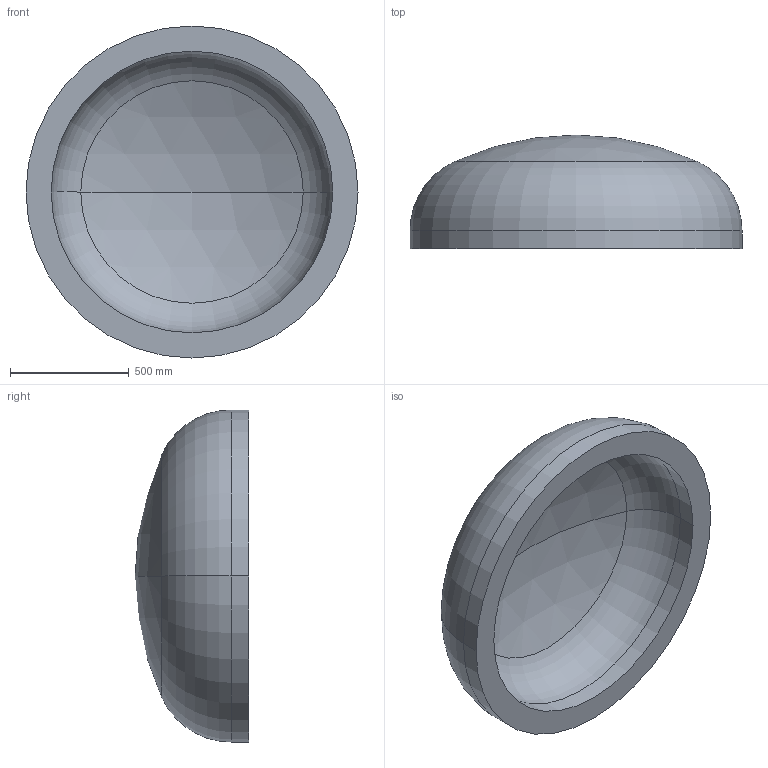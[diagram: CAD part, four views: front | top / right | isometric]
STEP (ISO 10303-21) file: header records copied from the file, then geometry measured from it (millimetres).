
FILE_DESCRIPTION (( 'STEP AP203' ), '1' );
FILE_NAME ('DIN 28013 Korbbogenform_-_Boden DIN 28013 - 1400 x 75 - I - s=106.step', '2016-07-01T10:30:01', ( '' ), ( '' ), 'SwSTEP 2.0', 'SolidWorks 2013', '' );
FILE_SCHEMA (( 'CONFIG_CONTROL_DESIGN' ));
Length unit declared in the file: millimetre
Products named in the file (1): DIN 28013 Korbbogenform_-_Boden DIN 28013 - 1400 x 75 - I - s=106
Bounding box: 1400 x 479.18 x 1400 mm (x, y, z)
Volume: 237641918.7 mm3; surface area: 4938254.9 mm2
Topology: 1 solids, 1 shells, 13 faces, 24 edges, 14 vertices
Faces by surface type: torus 4, cylinder 4, sphere 4, plane 1
Entity records: 407 total; most frequent: DIRECTION 72, CARTESIAN_POINT 52, ORIENTED_EDGE 48, AXIS2_PLACEMENT_3D 34, EDGE_CURVE 24, CIRCLE 20, VERTEX_POINT 14, EDGE_LOOP 14
